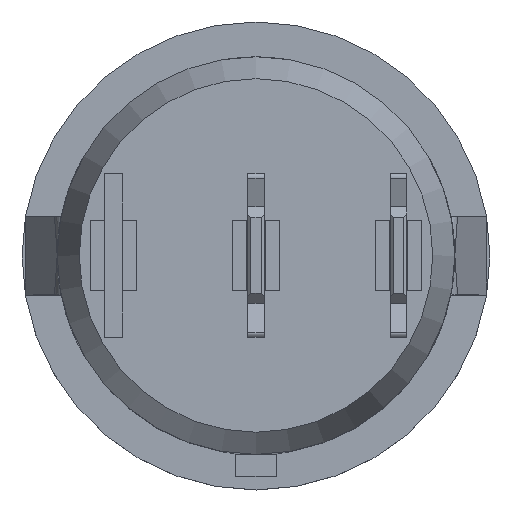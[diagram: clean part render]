
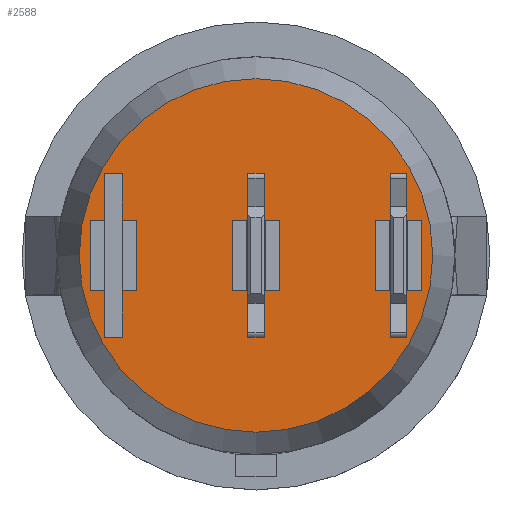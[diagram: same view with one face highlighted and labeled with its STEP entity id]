
A CAD part, top view. The second image highlights one B-rep face of the part: STEP entity #2588.
In plain terms, the highlighted planar face has unit normal (0, 0, 1).
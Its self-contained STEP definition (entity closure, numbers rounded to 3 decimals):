
#134=PLANE('',#2859);
#152=FACE_BOUND('',#443,.T.);
#153=FACE_BOUND('',#444,.T.);
#154=FACE_BOUND('',#445,.T.);
#155=FACE_BOUND('',#446,.T.);
#156=FACE_BOUND('',#447,.T.);
#157=FACE_BOUND('',#448,.T.);
#158=FACE_BOUND('',#449,.T.);
#296=FACE_OUTER_BOUND('',#442,.T.);
#442=EDGE_LOOP('',(#2387));
#443=EDGE_LOOP('',(#2388,#2389,#2390,#2391,#2392,#2393,#2394,#2395,#2396,
#2397,#2398,#2399));
#444=EDGE_LOOP('',(#2400,#2401,#2402,#2403));
#445=EDGE_LOOP('',(#2404,#2405,#2406,#2407));
#446=EDGE_LOOP('',(#2408,#2409,#2410,#2411));
#447=EDGE_LOOP('',(#2412,#2413,#2414,#2415));
#448=EDGE_LOOP('',(#2416,#2417,#2418,#2419));
#449=EDGE_LOOP('',(#2420,#2421,#2422,#2423));
#541=CIRCLE('',#2860,8.8);
#634=LINE('',#4143,#909);
#638=LINE('',#4152,#913);
#644=LINE('',#4164,#919);
#650=LINE('',#4175,#925);
#651=LINE('',#4176,#926);
#652=LINE('',#4179,#927);
#655=LINE('',#4184,#930);
#657=LINE('',#4190,#932);
#661=LINE('',#4198,#936);
#664=LINE('',#4204,#939);
#668=LINE('',#4210,#943);
#669=LINE('',#4211,#944);
#674=LINE('',#4232,#949);
#692=LINE('',#4291,#967);
#707=LINE('',#4334,#982);
#710=LINE('',#4341,#985);
#720=LINE('',#4361,#995);
#725=LINE('',#4370,#1000);
#742=LINE('',#4411,#1017);
#760=LINE('',#4447,#1035);
#768=LINE('',#4469,#1043);
#772=LINE('',#4477,#1047);
#775=LINE('',#4483,#1050);
#778=LINE('',#4488,#1053);
#780=LINE('',#4494,#1055);
#784=LINE('',#4502,#1059);
#787=LINE('',#4508,#1062);
#790=LINE('',#4513,#1065);
#792=LINE('',#4519,#1067);
#796=LINE('',#4527,#1071);
#799=LINE('',#4533,#1074);
#802=LINE('',#4538,#1077);
#804=LINE('',#4544,#1079);
#808=LINE('',#4552,#1083);
#811=LINE('',#4558,#1086);
#814=LINE('',#4563,#1089);
#909=VECTOR('',#3172,10.);
#913=VECTOR('',#3178,10.);
#919=VECTOR('',#3188,10.);
#925=VECTOR('',#3196,10.);
#926=VECTOR('',#3197,10.);
#927=VECTOR('',#3200,10.);
#930=VECTOR('',#3205,10.);
#932=VECTOR('',#3211,10.);
#936=VECTOR('',#3217,10.);
#939=VECTOR('',#3222,10.);
#943=VECTOR('',#3228,10.);
#944=VECTOR('',#3229,10.);
#949=VECTOR('',#3250,10.);
#967=VECTOR('',#3300,10.);
#982=VECTOR('',#3335,10.);
#985=VECTOR('',#3342,10.);
#995=VECTOR('',#3362,10.);
#1000=VECTOR('',#3371,10.);
#1017=VECTOR('',#3414,10.);
#1035=VECTOR('',#3448,10.);
#1043=VECTOR('',#3474,10.);
#1047=VECTOR('',#3480,10.);
#1050=VECTOR('',#3485,10.);
#1053=VECTOR('',#3490,10.);
#1055=VECTOR('',#3496,10.);
#1059=VECTOR('',#3502,10.);
#1062=VECTOR('',#3507,10.);
#1065=VECTOR('',#3512,10.);
#1067=VECTOR('',#3518,10.);
#1071=VECTOR('',#3524,10.);
#1074=VECTOR('',#3529,10.);
#1077=VECTOR('',#3534,10.);
#1079=VECTOR('',#3540,10.);
#1083=VECTOR('',#3546,10.);
#1086=VECTOR('',#3551,10.);
#1089=VECTOR('',#3556,10.);
#1188=VERTEX_POINT('',#4141);
#1189=VERTEX_POINT('',#4142);
#1192=VERTEX_POINT('',#4150);
#1193=VERTEX_POINT('',#4151);
#1196=VERTEX_POINT('',#4162);
#1197=VERTEX_POINT('',#4163);
#1201=VERTEX_POINT('',#4173);
#1202=VERTEX_POINT('',#4178);
#1204=VERTEX_POINT('',#4188);
#1205=VERTEX_POINT('',#4189);
#1208=VERTEX_POINT('',#4197);
#1210=VERTEX_POINT('',#4203);
#1218=VERTEX_POINT('',#4229);
#1219=VERTEX_POINT('',#4231);
#1243=VERTEX_POINT('',#4288);
#1244=VERTEX_POINT('',#4290);
#1262=VERTEX_POINT('',#4332);
#1264=VERTEX_POINT('',#4340);
#1269=VERTEX_POINT('',#4360);
#1271=VERTEX_POINT('',#4368);
#1296=VERTEX_POINT('',#4467);
#1297=VERTEX_POINT('',#4468);
#1300=VERTEX_POINT('',#4476);
#1302=VERTEX_POINT('',#4482);
#1304=VERTEX_POINT('',#4492);
#1305=VERTEX_POINT('',#4493);
#1308=VERTEX_POINT('',#4501);
#1310=VERTEX_POINT('',#4507);
#1312=VERTEX_POINT('',#4517);
#1313=VERTEX_POINT('',#4518);
#1316=VERTEX_POINT('',#4526);
#1318=VERTEX_POINT('',#4532);
#1320=VERTEX_POINT('',#4542);
#1321=VERTEX_POINT('',#4543);
#1324=VERTEX_POINT('',#4551);
#1326=VERTEX_POINT('',#4557);
#1329=VERTEX_POINT('',#4571);
#1483=EDGE_CURVE('',#1188,#1189,#634,.T.);
#1487=EDGE_CURVE('',#1192,#1193,#638,.T.);
#1493=EDGE_CURVE('',#1196,#1197,#644,.T.);
#1499=EDGE_CURVE('',#1193,#1201,#650,.T.);
#1500=EDGE_CURVE('',#1197,#1188,#651,.T.);
#1501=EDGE_CURVE('',#1201,#1202,#652,.T.);
#1504=EDGE_CURVE('',#1202,#1196,#655,.T.);
#1506=EDGE_CURVE('',#1204,#1205,#657,.T.);
#1510=EDGE_CURVE('',#1205,#1208,#661,.T.);
#1513=EDGE_CURVE('',#1208,#1210,#664,.T.);
#1517=EDGE_CURVE('',#1189,#1204,#668,.T.);
#1518=EDGE_CURVE('',#1210,#1192,#669,.T.);
#1527=EDGE_CURVE('',#1219,#1218,#674,.T.);
#1556=EDGE_CURVE('',#1244,#1243,#692,.T.);
#1578=EDGE_CURVE('',#1243,#1262,#707,.T.);
#1581=EDGE_CURVE('',#1264,#1244,#710,.T.);
#1591=EDGE_CURVE('',#1269,#1219,#720,.T.);
#1596=EDGE_CURVE('',#1218,#1271,#725,.T.);
#1617=EDGE_CURVE('',#1262,#1264,#742,.T.);
#1636=EDGE_CURVE('',#1271,#1269,#760,.T.);
#1645=EDGE_CURVE('',#1296,#1297,#768,.T.);
#1649=EDGE_CURVE('',#1297,#1300,#772,.T.);
#1652=EDGE_CURVE('',#1300,#1302,#775,.T.);
#1655=EDGE_CURVE('',#1302,#1296,#778,.T.);
#1657=EDGE_CURVE('',#1304,#1305,#780,.T.);
#1661=EDGE_CURVE('',#1305,#1308,#784,.T.);
#1664=EDGE_CURVE('',#1308,#1310,#787,.T.);
#1667=EDGE_CURVE('',#1310,#1304,#790,.T.);
#1669=EDGE_CURVE('',#1312,#1313,#792,.T.);
#1673=EDGE_CURVE('',#1313,#1316,#796,.T.);
#1676=EDGE_CURVE('',#1316,#1318,#799,.T.);
#1679=EDGE_CURVE('',#1318,#1312,#802,.T.);
#1681=EDGE_CURVE('',#1320,#1321,#804,.T.);
#1685=EDGE_CURVE('',#1321,#1324,#808,.T.);
#1688=EDGE_CURVE('',#1324,#1326,#811,.T.);
#1691=EDGE_CURVE('',#1326,#1320,#814,.T.);
#1694=EDGE_CURVE('',#1329,#1329,#541,.T.);
#2387=ORIENTED_EDGE('',*,*,#1694,.F.);
#2388=ORIENTED_EDGE('',*,*,#1517,.T.);
#2389=ORIENTED_EDGE('',*,*,#1506,.T.);
#2390=ORIENTED_EDGE('',*,*,#1510,.T.);
#2391=ORIENTED_EDGE('',*,*,#1513,.T.);
#2392=ORIENTED_EDGE('',*,*,#1518,.T.);
#2393=ORIENTED_EDGE('',*,*,#1487,.T.);
#2394=ORIENTED_EDGE('',*,*,#1499,.T.);
#2395=ORIENTED_EDGE('',*,*,#1501,.T.);
#2396=ORIENTED_EDGE('',*,*,#1504,.T.);
#2397=ORIENTED_EDGE('',*,*,#1493,.T.);
#2398=ORIENTED_EDGE('',*,*,#1500,.T.);
#2399=ORIENTED_EDGE('',*,*,#1483,.T.);
#2400=ORIENTED_EDGE('',*,*,#1617,.T.);
#2401=ORIENTED_EDGE('',*,*,#1581,.T.);
#2402=ORIENTED_EDGE('',*,*,#1556,.T.);
#2403=ORIENTED_EDGE('',*,*,#1578,.T.);
#2404=ORIENTED_EDGE('',*,*,#1527,.T.);
#2405=ORIENTED_EDGE('',*,*,#1596,.T.);
#2406=ORIENTED_EDGE('',*,*,#1636,.T.);
#2407=ORIENTED_EDGE('',*,*,#1591,.T.);
#2408=ORIENTED_EDGE('',*,*,#1645,.T.);
#2409=ORIENTED_EDGE('',*,*,#1649,.T.);
#2410=ORIENTED_EDGE('',*,*,#1652,.T.);
#2411=ORIENTED_EDGE('',*,*,#1655,.T.);
#2412=ORIENTED_EDGE('',*,*,#1657,.T.);
#2413=ORIENTED_EDGE('',*,*,#1661,.T.);
#2414=ORIENTED_EDGE('',*,*,#1664,.T.);
#2415=ORIENTED_EDGE('',*,*,#1667,.T.);
#2416=ORIENTED_EDGE('',*,*,#1669,.T.);
#2417=ORIENTED_EDGE('',*,*,#1673,.T.);
#2418=ORIENTED_EDGE('',*,*,#1676,.T.);
#2419=ORIENTED_EDGE('',*,*,#1679,.T.);
#2420=ORIENTED_EDGE('',*,*,#1681,.T.);
#2421=ORIENTED_EDGE('',*,*,#1685,.T.);
#2422=ORIENTED_EDGE('',*,*,#1688,.T.);
#2423=ORIENTED_EDGE('',*,*,#1691,.T.);
#2588=ADVANCED_FACE('',(#296,#152,#153,#154,#155,#156,#157,#158),#134,.F.);
#2859=AXIS2_PLACEMENT_3D('',#4570,#3566,#3567);
#2860=AXIS2_PLACEMENT_3D('',#4572,#3568,#3569);
#3172=DIRECTION('',(0.,-1.,0.));
#3178=DIRECTION('',(0.,1.,0.));
#3188=DIRECTION('',(0.,-1.,0.));
#3196=DIRECTION('',(1.,0.,0.));
#3197=DIRECTION('',(1.,0.,0.));
#3200=DIRECTION('',(0.,1.,0.));
#3205=DIRECTION('',(1.,0.,0.));
#3211=DIRECTION('',(0.,-1.,0.));
#3217=DIRECTION('',(-1.,0.,0.));
#3222=DIRECTION('',(0.,1.,0.));
#3228=DIRECTION('',(-1.,0.,0.));
#3229=DIRECTION('',(-1.,0.,0.));
#3250=DIRECTION('',(1.,0.,0.));
#3300=DIRECTION('',(-1.,0.,0.));
#3335=DIRECTION('',(0.,1.,0.));
#3342=DIRECTION('',(0.,-1.,0.));
#3362=DIRECTION('',(0.,1.,0.));
#3371=DIRECTION('',(0.,-1.,0.));
#3414=DIRECTION('',(1.,0.,0.));
#3448=DIRECTION('',(-1.,0.,0.));
#3474=DIRECTION('',(0.,-1.,0.));
#3480=DIRECTION('',(-1.,0.,0.));
#3485=DIRECTION('',(0.,1.,0.));
#3490=DIRECTION('',(1.,0.,0.));
#3496=DIRECTION('',(0.,1.,0.));
#3502=DIRECTION('',(1.,0.,0.));
#3507=DIRECTION('',(0.,-1.,0.));
#3512=DIRECTION('',(-1.,0.,0.));
#3518=DIRECTION('',(0.,-1.,0.));
#3524=DIRECTION('',(-1.,0.,0.));
#3529=DIRECTION('',(0.,1.,0.));
#3534=DIRECTION('',(1.,0.,0.));
#3540=DIRECTION('',(0.,1.,0.));
#3546=DIRECTION('',(1.,0.,0.));
#3551=DIRECTION('',(0.,-1.,0.));
#3556=DIRECTION('',(-1.,0.,0.));
#3566=DIRECTION('center_axis',(0.,0.,-1.));
#3567=DIRECTION('ref_axis',(-1.,0.,0.));
#3568=DIRECTION('center_axis',(0.,0.,-1.));
#3569=DIRECTION('ref_axis',(-1.,0.,0.));
#4141=CARTESIAN_POINT('',(4.083,7.55,0.));
#4142=CARTESIAN_POINT('',(4.083,6.65,0.));
#4143=CARTESIAN_POINT('',(4.083,3.775,0.));
#4150=CARTESIAN_POINT('',(-4.083,6.65,0.));
#4151=CARTESIAN_POINT('',(-4.083,7.55,0.));
#4152=CARTESIAN_POINT('',(-4.083,3.325,0.));
#4162=CARTESIAN_POINT('',(1.75,8.25,0.));
#4163=CARTESIAN_POINT('',(1.75,7.55,0.));
#4164=CARTESIAN_POINT('',(1.75,3.775,0.));
#4173=CARTESIAN_POINT('',(-1.75,7.55,0.));
#4175=CARTESIAN_POINT('',(-2.041,7.55,0.));
#4176=CARTESIAN_POINT('',(-2.041,7.55,0.));
#4178=CARTESIAN_POINT('',(-1.75,8.25,0.));
#4179=CARTESIAN_POINT('',(-1.75,4.125,0.));
#4184=CARTESIAN_POINT('',(0.875,8.25,0.));
#4188=CARTESIAN_POINT('',(1.75,6.65,0.));
#4189=CARTESIAN_POINT('',(1.75,5.95,0.));
#4190=CARTESIAN_POINT('',(1.75,2.975,0.));
#4197=CARTESIAN_POINT('',(-1.75,5.95,0.));
#4198=CARTESIAN_POINT('',(-0.875,5.95,0.));
#4203=CARTESIAN_POINT('',(-1.75,6.65,0.));
#4204=CARTESIAN_POINT('',(-1.75,3.325,0.));
#4210=CARTESIAN_POINT('',(2.041,6.65,0.));
#4211=CARTESIAN_POINT('',(2.041,6.65,0.));
#4229=CARTESIAN_POINT('',(3.2,0.4,0.));
#4231=CARTESIAN_POINT('',(-3.2,0.4,0.));
#4232=CARTESIAN_POINT('',(-1.625,0.4,0.));
#4288=CARTESIAN_POINT('',(-3.2,-7.5,0.));
#4290=CARTESIAN_POINT('',(3.2,-7.5,0.));
#4291=CARTESIAN_POINT('',(1.625,-7.5,0.));
#4332=CARTESIAN_POINT('',(-3.2,-6.7,0.));
#4334=CARTESIAN_POINT('',(-3.2,-3.75,0.));
#4340=CARTESIAN_POINT('',(3.2,-6.7,0.));
#4341=CARTESIAN_POINT('',(3.2,-3.75,0.));
#4360=CARTESIAN_POINT('',(-3.2,-0.4,0.));
#4361=CARTESIAN_POINT('',(-3.2,0.2,0.));
#4368=CARTESIAN_POINT('',(3.2,-0.4,0.));
#4370=CARTESIAN_POINT('',(3.2,0.2,0.));
#4411=CARTESIAN_POINT('',(1.2,-6.7,0.));
#4447=CARTESIAN_POINT('',(1.625,-0.4,0.));
#4467=CARTESIAN_POINT('',(1.75,-7.55,0.));
#4468=CARTESIAN_POINT('',(1.75,-8.25,0.));
#4469=CARTESIAN_POINT('',(1.75,-4.125,0.));
#4476=CARTESIAN_POINT('',(-1.75,-8.25,0.));
#4477=CARTESIAN_POINT('',(-0.875,-8.25,0.));
#4482=CARTESIAN_POINT('',(-1.75,-7.55,0.));
#4483=CARTESIAN_POINT('',(-1.75,-3.775,0.));
#4488=CARTESIAN_POINT('',(0.875,-7.55,0.));
#4492=CARTESIAN_POINT('',(-1.75,-1.15,0.));
#4493=CARTESIAN_POINT('',(-1.75,-0.45,0.));
#4494=CARTESIAN_POINT('',(-1.75,-0.225,0.));
#4501=CARTESIAN_POINT('',(1.75,-0.45,0.));
#4502=CARTESIAN_POINT('',(0.875,-0.45,0.));
#4507=CARTESIAN_POINT('',(1.75,-1.15,0.));
#4508=CARTESIAN_POINT('',(1.75,-0.575,0.));
#4513=CARTESIAN_POINT('',(-0.875,-1.15,0.));
#4517=CARTESIAN_POINT('',(1.75,-5.95,0.));
#4518=CARTESIAN_POINT('',(1.75,-6.65,0.));
#4519=CARTESIAN_POINT('',(1.75,-3.325,0.));
#4526=CARTESIAN_POINT('',(-1.75,-6.65,0.));
#4527=CARTESIAN_POINT('',(-0.875,-6.65,0.));
#4532=CARTESIAN_POINT('',(-1.75,-5.95,0.));
#4533=CARTESIAN_POINT('',(-1.75,-2.975,0.));
#4538=CARTESIAN_POINT('',(0.875,-5.95,0.));
#4542=CARTESIAN_POINT('',(-1.75,0.45,0.));
#4543=CARTESIAN_POINT('',(-1.75,1.15,0.));
#4544=CARTESIAN_POINT('',(-1.75,0.575,0.));
#4551=CARTESIAN_POINT('',(1.75,1.15,0.));
#4552=CARTESIAN_POINT('',(0.875,1.15,0.));
#4557=CARTESIAN_POINT('',(1.75,0.45,0.));
#4558=CARTESIAN_POINT('',(1.75,0.225,0.));
#4563=CARTESIAN_POINT('',(-0.875,0.45,0.));
#4570=CARTESIAN_POINT('Origin',(0.,0.,0.));
#4571=CARTESIAN_POINT('',(8.8,0.,0.));
#4572=CARTESIAN_POINT('Origin',(0.,0.,0.));
